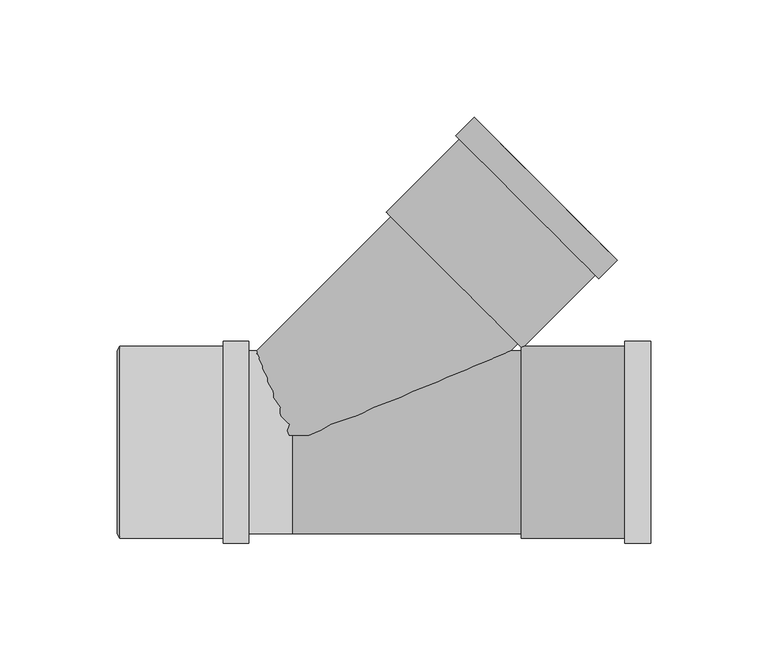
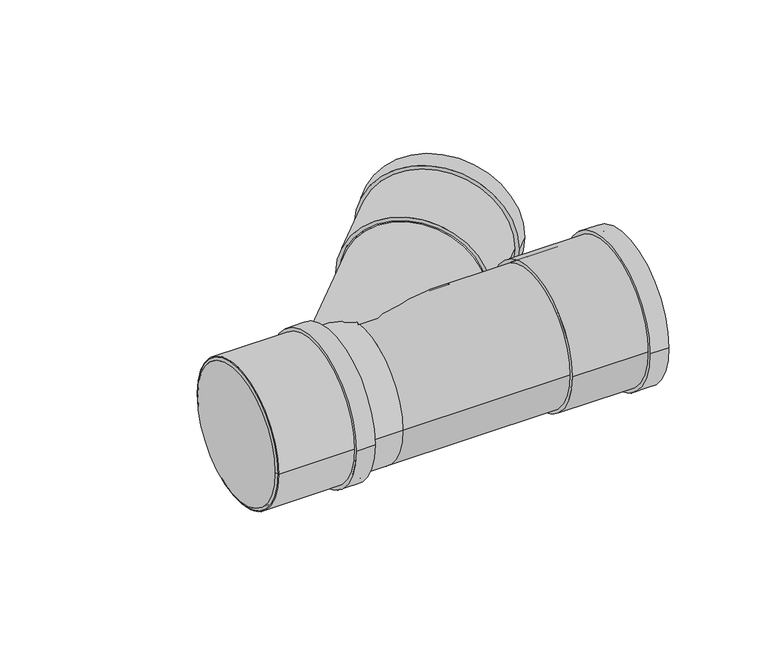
"""IFC4 building model written with IfcOpenShell, lengths in millimetres: pipe fitting geometry, Superdrain SKEA Branch : Superdrain SKEA Branch."""

from ifc_helpers import new_model, si_unit, point, frame, origin, origin_2d, place, context, project, spatial, polyline, circle_curve, ellipse_curve, trimmed, segment, composite_curve, outline, extrude, source, transform, mapped, element, save
from ifc_brep_helpers import plane_surface, cylinder_surface, revolved_surface, advanced_brep


def pipe_fitting_2ce4e05f(model_context):
    return source(origin(), model_context, "Body", "SolidModel", [
        extrude(outline(composite_curve([segment(trimmed(circle_curve(origin_2d(), 40.95), [point((40.95, 0.0))], [point((-40.95, 0.0))], False, "CARTESIAN"), True, "CONTINUOUS"), segment(trimmed(circle_curve(origin_2d(), 40.95), [point((-40.95, 0.0))], [point((40.95, 0.0))], False, "CARTESIAN"), True, "CONTINUOUS")], self_intersect=False), holes=[composite_curve([segment(trimmed(circle_curve(origin_2d(), 39.0), [point((39.0, 0.0))], [point((-39.0, 0.0))], True, "CARTESIAN"), True, "CONTINUOUS"), segment(trimmed(circle_curve(origin_2d(), 39.0), [point((-39.0, 0.0))], [point((39.0, 0.0))], True, "CARTESIAN"), True, "CONTINUOUS")], self_intersect=False)]), frame((-73.4, 0.0, 0.0), z_axis=(1.0, 0.0, 0.0), x_axis=(0.0, 1.0, 0.0)), (0.0, 0.0, 1.0), 55.0),
        extrude(outline(composite_curve([segment(trimmed(circle_curve(origin_2d(), 42.9975), [point((42.9975, 0.0))], [point((-42.9975, 0.0))], False, "CARTESIAN"), True, "CONTINUOUS"), segment(trimmed(circle_curve(origin_2d(), 42.9975), [point((-42.9975, 0.0))], [point((42.9975, 0.0))], False, "CARTESIAN"), True, "CONTINUOUS")], self_intersect=False), holes=[composite_curve([segment(trimmed(circle_curve(origin_2d(), 39.0), [point((39.0, 0.0))], [point((-39.0, 0.0))], True, "CARTESIAN"), True, "CONTINUOUS"), segment(trimmed(circle_curve(origin_2d(), 39.0), [point((-39.0, 0.0))], [point((39.0, 0.0))], True, "CARTESIAN"), True, "CONTINUOUS")], self_intersect=False)]), frame((-29.4, 0.0, 0.0), z_axis=(1.0, 0.0, 0.0), x_axis=(0.0, 1.0, 0.0)), (0.0, 0.0, 1.0), 11.0),
        advanced_brep(
        [(-74.4, 39.0, 0.0), (-74.4, -39.0, 0.0), (-73.4, 40.95, 0.0), (-73.4, -40.95, 0.0)],
        [
            (0, 1, circle_curve(frame((-74.4, 0.0, 0.0), z_axis=(-1.0, 0.0, 0.0), x_axis=(0.0, 1.0, 0.0)), 39.0)),
            (1, 0, circle_curve(frame((-74.4, 0.0, 0.0), z_axis=(-1.0, 0.0, 0.0), x_axis=(0.0, -1.0, 0.0)), 39.0)),
            (2, 3, circle_curve(frame((-73.4, 0.0, 0.0), z_axis=(1.0, 0.0, 0.0), x_axis=(0.0, -1.0, 0.0)), 40.95)),
            (3, 2, circle_curve(frame((-73.4, 0.0, 0.0), z_axis=(1.0, 0.0, 0.0), x_axis=(0.0, 1.0, 0.0)), 40.95)),
            (3, 1),
            (0, 2),
        ],
        [
            plane_surface(frame((-74.4, 0.0, 0.0), z_axis=(-1.0, 0.0, 0.0), x_axis=(0.0, 0.0, -1.0))),
            plane_surface(frame((-73.4, 0.0, 0.0), z_axis=(1.0, 0.0, 0.0), x_axis=(0.0, 0.0, -1.0))),
            revolved_surface(polyline([(-74.4, 39.0, 0.0), (-73.4, 40.95, 0.0)]), (-94.4, 0.0, 0.0), (1.0, 0.0, 0.0)),
            revolved_surface(polyline([(-74.4, -39.0, 0.0), (-73.4, -40.95, 0.0)]), (-94.4, 0.0, 0.0), (1.0, 0.0, 0.0)),
        ],
        [
            (0, [[1, 2]]),
            (1, [[3, 4]]),
            (2, [[-4, 5, -1, 6]]),
            (3, [[-3, -6, -2, -5]]),
        ],
    ),
        advanced_brep(
        [(96.039243, 41.9880007, 0.0), (41.9880007, 96.039243, 0.0), (-15.8312424, 38.22, 0.0), (0.0, 0.0, 38.22), (92.2712424, 38.22, 0.0), (0.0, 0.0, -38.22)],
        [
            (0, 1, circle_curve(frame((69.0136218, 69.0136218, 0.0), z_axis=(0.7071067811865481, 0.707106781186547, 0.0), x_axis=(-0.707106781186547, 0.7071067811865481, 0.0)), 38.22)),
            (1, 0, circle_curve(frame((69.0136218, 69.0136218, 0.0), z_axis=(0.7071067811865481, 0.707106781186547, 0.0), x_axis=(-0.707106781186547, 0.7071067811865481, 0.0)), 38.22)),
            (1, 2),
            (2, 3, ellipse_curve(frame((0.0, 0.0, 0.0), z_axis=(0.923879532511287, 0.38268343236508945, 0.0), x_axis=(0.38268343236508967, -0.923879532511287, 0.0)), 41.3690299, 38.22)),
            (3, 4, ellipse_curve(frame((0.0, 0.0, 0.0), z_axis=(-0.3826834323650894, 0.9238795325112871, 0.0), x_axis=(-0.9238795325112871, -0.38268343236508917, 0.0)), 99.873673, 38.22)),
            (4, 0),
            (4, 5, ellipse_curve(frame((0.0, 0.0, 0.0), z_axis=(-0.3826834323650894, 0.9238795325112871, 0.0), x_axis=(-0.9238795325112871, -0.38268343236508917, 0.0)), 99.873673, 38.22)),
            (5, 2, ellipse_curve(frame((0.0, 0.0, 0.0), z_axis=(0.923879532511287, 0.38268343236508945, 0.0), x_axis=(0.38268343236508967, -0.923879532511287, 0.0)), 41.3690299, 38.22)),
            (2, 4),
        ],
        [
            plane_surface(frame((69.0136218, 69.0136218, 0.0), z_axis=(0.7071067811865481, 0.707106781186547, 0.0), x_axis=(0.0, 0.0, 1.0))),
            cylinder_surface(frame((0.0, 0.0, 0.0), z_axis=(-0.7071067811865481, -0.707106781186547, 0.0), x_axis=(-0.707106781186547, 0.7071067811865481, 0.0)), 38.22),
            revolved_surface(polyline([(-92.27124232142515, 38.22, 0.0), (92.2712424, 38.22, 0.0)]), (-78.4, 0.0, 0.0), (-1.0, 0.0, 0.0)),
        ],
        [
            (0, [[1, 2]]),
            (1, [[-2, 3, 4, 5, 6]]),
            (1, [[-1, -6, 7, 8, -3]]),
            (2, [[9, -5, -4]]),
            (2, [[-9, -8, -7]]),
        ],
    ),
        advanced_brep(
        [(97.6, -40.95, 0.0), (97.6, 40.95, 0.0), (152.6, -40.95, 0.0), (152.6, 40.95, 0.0), (152.6, -39.0, 0.0), (152.6, 39.0, 0.0), (98.6, -39.0, 0.0), (98.6, 39.0, 0.0)],
        [
            (0, 1, circle_curve(frame((97.6, 0.0, 0.0), z_axis=(-1.0, 0.0, 0.0), x_axis=(0.0, 1.0, 0.0)), 40.95)),
            (1, 0, circle_curve(frame((97.6, 0.0, 0.0), z_axis=(-1.0, 0.0, 0.0), x_axis=(0.0, 1.0, 0.0)), 40.95)),
            (2, 3, circle_curve(frame((152.6, 0.0, 0.0), z_axis=(1.0, 0.0, 0.0), x_axis=(0.0, 1.0, 0.0)), 40.95)),
            (3, 2, circle_curve(frame((152.6, 0.0, 0.0), z_axis=(1.0, 0.0, 0.0), x_axis=(0.0, 1.0, 0.0)), 40.95)),
            (4, 5, circle_curve(frame((152.6, 0.0, 0.0), z_axis=(-1.0, 0.0, 0.0), x_axis=(0.0, 1.0, 0.0)), 39.0)),
            (5, 4, circle_curve(frame((152.6, 0.0, 0.0), z_axis=(-1.0, 0.0, 0.0), x_axis=(0.0, 1.0, 0.0)), 39.0)),
            (0, 2),
            (3, 1),
            (6, 7, circle_curve(frame((98.6, 0.0, 0.0), z_axis=(-1.0, 0.0, 0.0), x_axis=(0.0, 1.0, 0.0)), 39.0)),
            (7, 5),
            (4, 6),
            (7, 6, circle_curve(frame((98.6, 0.0, 0.0), z_axis=(-1.0, 0.0, 0.0), x_axis=(0.0, 1.0, 0.0)), 39.0)),
        ],
        [
            plane_surface(frame((97.6, 0.0, 0.0), z_axis=(-1.0, 0.0, 0.0), x_axis=(0.0, 0.0, 1.0))),
            plane_surface(frame((152.6, 0.0, 0.0), z_axis=(1.0, 0.0, 0.0), x_axis=(0.0, 0.0, 1.0))),
            cylinder_surface(frame((97.6, 0.0, 0.0), z_axis=(-1.0, 0.0, 0.0), x_axis=(0.0, 1.0, 0.0)), 40.95),
            revolved_surface(polyline([(98.6, 39.0, 0.0), (152.6, 39.0, 0.0)]), (98.6, 0.0, 0.0), (-1.0, 0.0, 0.0)),
            plane_surface(frame((98.6, 0.0, 0.0), z_axis=(1.0, 0.0, 0.0), x_axis=(0.0, 0.0, 1.0))),
        ],
        [
            (0, [[1, 2]]),
            (1, [[3, 4], [5, 6]]),
            (2, [[-1, 7, -4, 8]]),
            (2, [[-2, -8, -3, -7]]),
            (3, [[9, 10, -5, 11]]),
            (3, [[12, -11, -6, -10]]),
            (4, [[-12, -9]]),
        ],
    ),
        extrude(outline(composite_curve([segment(trimmed(circle_curve(origin_2d(), 42.9975), [point((42.9975, 0.0))], [point((-42.9975, 0.0))], False, "CARTESIAN"), True, "CONTINUOUS"), segment(trimmed(circle_curve(origin_2d(), 42.9975), [point((-42.9975, 0.0))], [point((42.9975, 0.0))], False, "CARTESIAN"), True, "CONTINUOUS")], self_intersect=False), holes=[composite_curve([segment(trimmed(circle_curve(origin_2d(), 39.0), [point((39.0, 0.0))], [point((-39.0, 0.0))], True, "CARTESIAN"), True, "CONTINUOUS"), segment(trimmed(circle_curve(origin_2d(), 39.0), [point((-39.0, 0.0))], [point((39.0, 0.0))], True, "CARTESIAN"), True, "CONTINUOUS")], self_intersect=False)]), frame((141.6, 0.0, 0.0), z_axis=(1.0, 0.0, 0.0), x_axis=(0.0, 1.0, 0.0)), (0.0, 0.0, 1.0), 11.0),
        extrude(outline(composite_curve([segment(trimmed(circle_curve(origin_2d(), 39.0), [point((39.0, 0.0))], [point((-39.0, 0.0))], False, "CARTESIAN"), True, "CONTINUOUS"), segment(trimmed(circle_curve(origin_2d(), 39.0), [point((-39.0, 0.0))], [point((39.0, 0.0))], False, "CARTESIAN"), True, "CONTINUOUS")], self_intersect=False)), frame((-73.4, 0.0, 0.0), z_axis=(1.0, 0.0, 0.0), x_axis=(0.0, 1.0, 0.0)), (0.0, 0.0, 1.0), 73.4),
        extrude(outline(composite_curve([segment(trimmed(circle_curve(origin_2d(), 39.0), [point((-39.0, 0.0))], [point((39.0, 0.0))], False, "CARTESIAN"), True, "CONTINUOUS"), segment(trimmed(circle_curve(origin_2d(), 39.0), [point((39.0, 0.0))], [point((-39.0, 0.0))], False, "CARTESIAN"), True, "CONTINUOUS")], self_intersect=False)), frame((0.0, 0.0, 0.0), z_axis=(1.0, 0.0, 0.0), x_axis=(0.0, 1.0, 0.0)), (0.0, 0.0, 1.0), 97.6),
        extrude(outline(composite_curve([segment(trimmed(circle_curve(origin_2d(), 42.9975), [point((0.0, 42.9975))], [point((0.0, -42.9975))], False, "CARTESIAN"), True, "CONTINUOUS"), segment(trimmed(circle_curve(origin_2d(), 42.9975), [point((0.0, -42.9975))], [point((0.0, 42.9975))], False, "CARTESIAN"), True, "CONTINUOUS")], self_intersect=False), holes=[composite_curve([segment(trimmed(circle_curve(origin_2d(), 39.0), [point((0.0, 39.0))], [point((0.0, -39.0))], True, "CARTESIAN"), True, "CONTINUOUS"), segment(trimmed(circle_curve(origin_2d(), 39.0), [point((0.0, -39.0))], [point((0.0, 39.0))], True, "CARTESIAN"), True, "CONTINUOUS")], self_intersect=False)]), frame((100.1263202, 100.1263202, 0.0), z_axis=(0.7071067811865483, 0.7071067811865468, 0.0), x_axis=(0.0, 0.0, 1.0)), (0.0, 0.0, 1.0), 11.0),
        extrude(outline(composite_curve([segment(trimmed(circle_curve(origin_2d(), 40.95), [point((0.0, 40.9499999))], [point((0.0, -40.9499999))], False, "CARTESIAN"), True, "CONTINUOUS"), segment(trimmed(circle_curve(origin_2d(), 40.95), [point((0.0, -40.9499999))], [point((0.0, 40.9499999))], False, "CARTESIAN"), True, "CONTINUOUS")], self_intersect=False), holes=[composite_curve([segment(trimmed(circle_curve(origin_2d(), 39.0), [point((0.0, 39.0))], [point((0.0, -39.0))], True, "CARTESIAN"), True, "CONTINUOUS"), segment(trimmed(circle_curve(origin_2d(), 39.0), [point((0.0, -39.0))], [point((0.0, 39.0))], True, "CARTESIAN"), True, "CONTINUOUS")], self_intersect=False)]), frame((69.0136218, 69.0136218, 0.0), z_axis=(0.707106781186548, 0.7071067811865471, 0.0), x_axis=(0.0, 0.0, 1.0)), (0.0, 0.0, 1.0), 55.0),
    ])


if __name__ == "__main__":
    model = new_model("IFC4")
    model_context = context("Model", 3, world=origin())
    ifc_project = project(units=[si_unit("LENGTHUNIT", "METRE", prefix="MILLI")], contexts=[model_context])
    site = spatial("IfcSite", under=ifc_project)
    building = spatial("IfcBuilding", under=site)
    placement = place(None, origin())
    pipe_fitting_shape = pipe_fitting_2ce4e05f(model_context)
    element("IfcPipeFitting", 1, ObjectType="Superdrain SKEA Branch : Superdrain SKEA Branch", at=placement, inside=building, context=model_context, shape_type="MappedRepresentation", body=[
        mapped(pipe_fitting_shape, transform((0.0, 0.0, 0.0), x_axis=(1.0, 0.0, 0.0), y_axis=(0.0, 1.0, 0.0), z_axis=(0.0, 0.0, 1.0))),
    ])
    save(model, "model.ifc")
